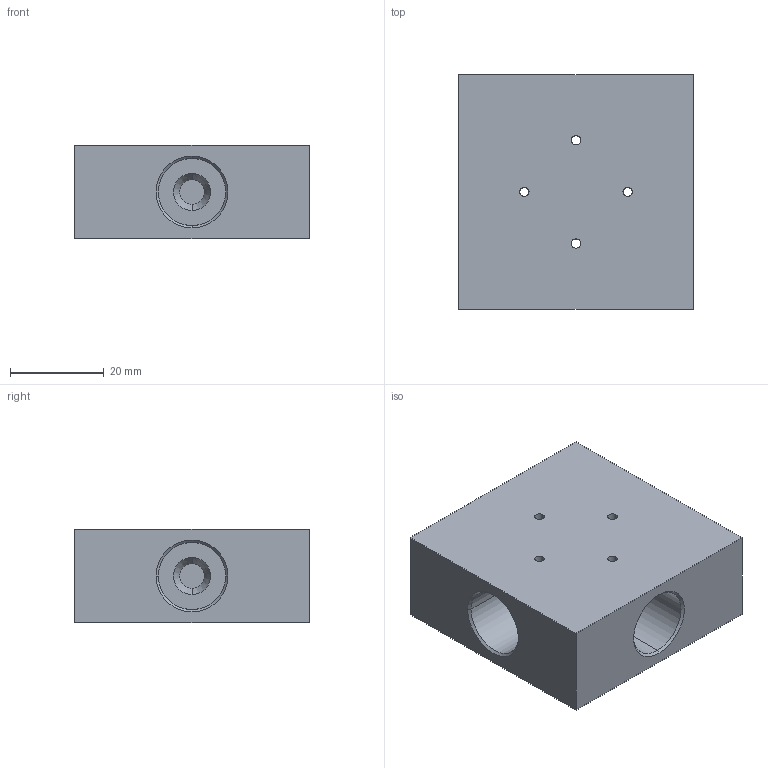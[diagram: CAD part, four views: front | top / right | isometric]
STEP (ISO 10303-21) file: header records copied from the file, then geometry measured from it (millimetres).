
FILE_DESCRIPTION (( 'STEP AP203' ), '1' );
FILE_NAME ('FT20CS06.STEP', '2026-06-26T00:48:33', ( 'USER' ), ( '' ), 'SwSTEP 2.0', 'SolidWorks 2023', '' );
FILE_SCHEMA (( 'CONFIG_CONTROL_DESIGN' ));
Length unit declared in the file: millimetre
Products named in the file (1): FT20CS06
Bounding box: 50 x 50 x 20 mm (x, y, z)
Volume: 39223 mm3; surface area: 12166 mm2
Topology: 1 solids, 1 shells, 62 faces, 152 edges, 96 vertices
Faces by surface type: cylinder 32, cone 16, plane 14
Entity records: 2173 total; most frequent: CARTESIAN_POINT 591, DIRECTION 318, ORIENTED_EDGE 304, EDGE_CURVE 152, AXIS2_PLACEMENT_3D 127, VERTEX_POINT 96, EDGE_LOOP 82, CIRCLE 64
